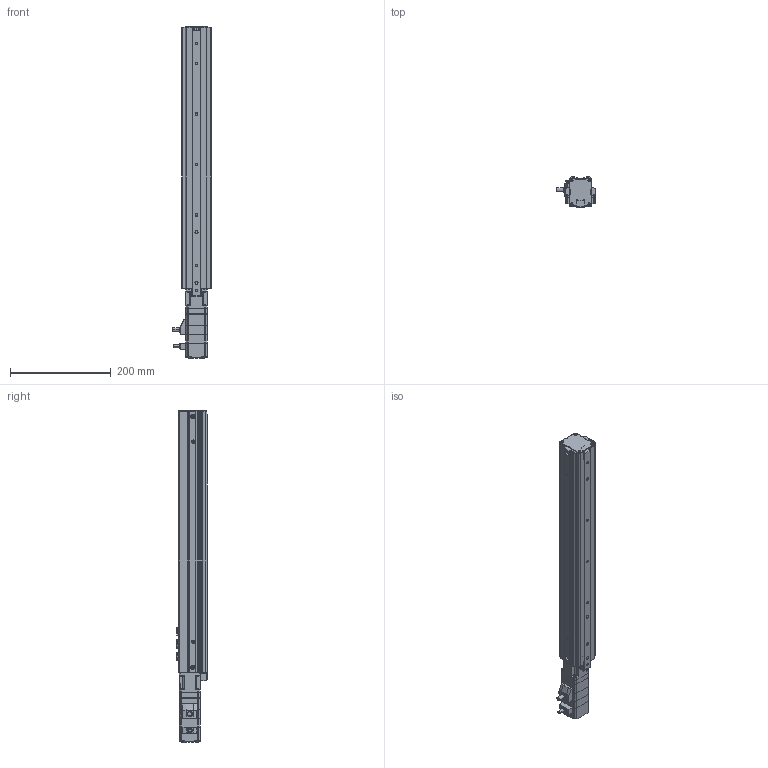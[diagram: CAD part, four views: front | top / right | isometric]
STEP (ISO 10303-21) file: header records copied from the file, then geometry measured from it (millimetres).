
FILE_DESCRIPTION (( 'STEP AP203' ), '1' );
FILE_NAME ('EASM4YD040ARMC.step', '2013-10-09T07:34:32', ( 'om' ), ( 'Hewlett-Packard Company' ), 'SwSTEP 2.0', 'SolidWorks 2011', '' );
FILE_SCHEMA (( 'CONFIG_CONTROL_DESIGN' ));
Length unit declared in the file: millimetre
Products named in the file (4): EASM4YD040ARMC; EASM4YD040ARMC_Table; EASM4YD040ARMC_BASE; EASM4YD040ARMC_Motor
Assembly tree (3 placements, depth 2):
  EASM4YD040ARMC
    EASM4YD040ARMC_BASE
    EASM4YD040ARMC_Motor
    EASM4YD040ARMC_Table
Bounding box: 76.2 x 60 x 657.8 mm (x, y, z)
Volume: 948736 mm3; surface area: 321447.8 mm2
Topology: 3 solids, 13 shells, 1146 faces, 2970 edges, 1939 vertices
Faces by surface type: plane 631, cylinder 427, cone 50, torus 30, bspline 6, sphere 2
Entity records: 35676 total; most frequent: CARTESIAN_POINT 6359, DIRECTION 6166, ORIENTED_EDGE 5908, EDGE_CURVE 2954, AXIS2_PLACEMENT_3D 2102, VECTOR 1962, LINE 1962, VERTEX_POINT 1939
